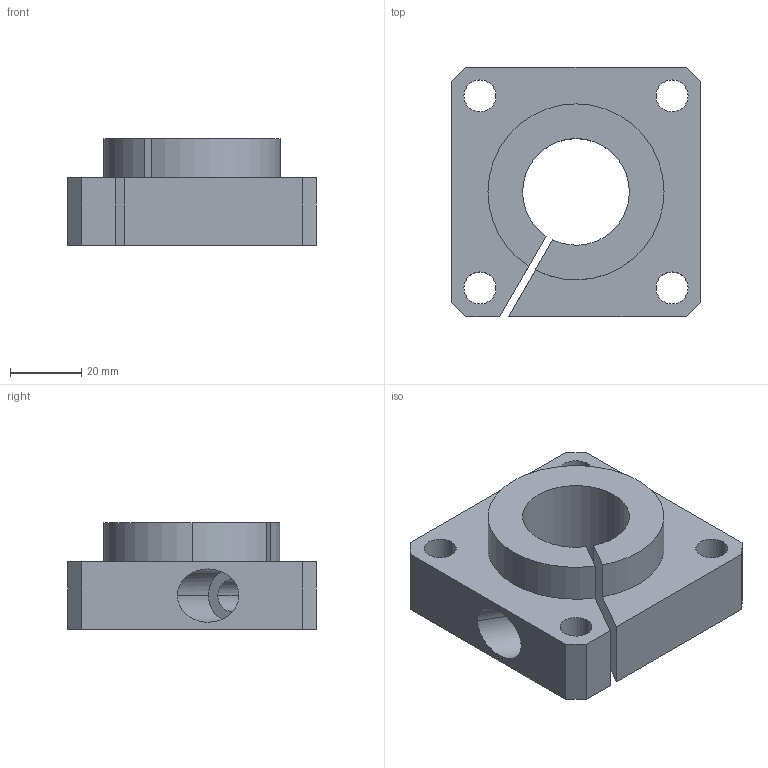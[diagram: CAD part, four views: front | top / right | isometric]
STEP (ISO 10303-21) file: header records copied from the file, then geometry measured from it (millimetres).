
FILE_DESCRIPTION (( 'STEP AP214' ), '1' );
FILE_NAME ('KFWB56-30.step', '2020-03-04T13:40:41', ( '' ), ( '' ), 'SwSTEP 2.0', 'SolidWorks 2019', '' );
FILE_SCHEMA (( 'AUTOMOTIVE_DESIGN' ));
Length unit declared in the file: millimetre
Products named in the file (1): KFWB56-30
Bounding box: 70 x 70 x 30 mm (x, y, z)
Volume: 82199.6 mm3; surface area: 21978.1 mm2
Topology: 1 solids, 1 shells, 37 faces, 100 edges, 65 vertices
Faces by surface type: cylinder 20, plane 15, cone 2
Entity records: 1238 total; most frequent: DIRECTION 210, CARTESIAN_POINT 207, ORIENTED_EDGE 196, EDGE_CURVE 98, AXIS2_PLACEMENT_3D 76, VERTEX_POINT 65, LINE 58, VECTOR 58
